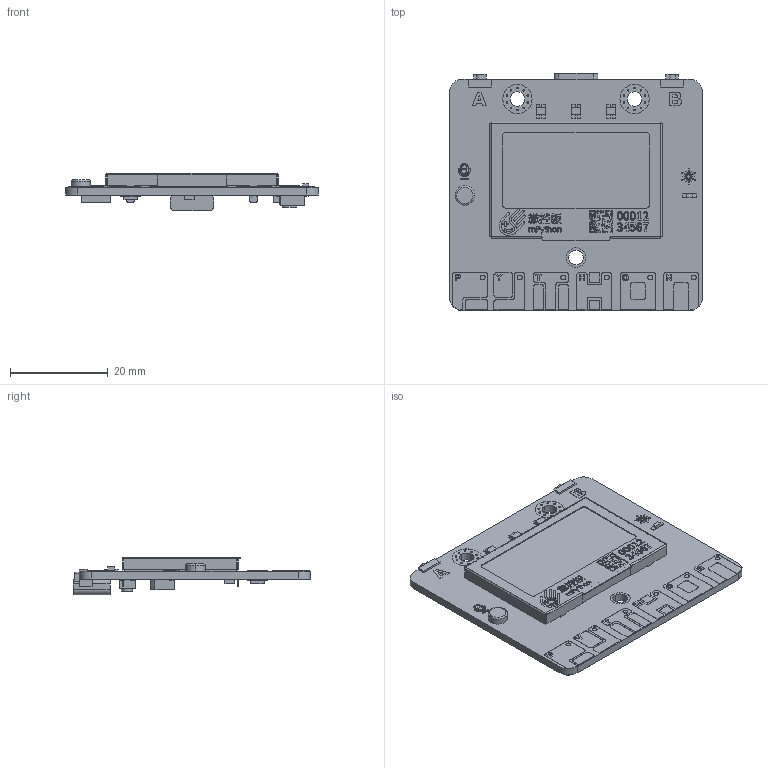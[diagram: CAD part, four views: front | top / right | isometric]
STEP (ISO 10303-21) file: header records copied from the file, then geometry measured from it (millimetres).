
FILE_DESCRIPTION((''),'2;1');
FILE_NAME('LABPLUS_ESP32_BOARD_B_V1_0_32_1','2020-01-02T15:13:43',('Administrator'),(''),'CREO PARAMETRIC BY PTC INC, 2016390','CREO PARAMETRIC BY PTC INC, 2016390','');
FILE_SCHEMA(('AUTOMOTIVE_DESIGN { 1 0 10303 214 1 1 1 1 }'));
Products named in the file (1): LABPLUS_ESP32_BOARD_B_V1_0_32_1
Bounding box: 51.8 x 48.59 x 7.65 mm (x, y, z)
Volume: 6409.9 mm3; surface area: 6851.6 mm2
Topology: 1 solids, 1 shells, 2715 faces, 7199 edges, 4786 vertices
Faces by surface type: plane 1860, extrusion 697, cylinder 156, torus 2
Entity records: 114523 total; most frequent: CARTESIAN_POINT 24503, ORIENTED_EDGE 14334, DIRECTION 10779, PRESENTATION_STYLE_ASSIGNMENT 7456, STYLED_ITEM 7168, CURVE_STYLE 7167, EDGE_CURVE 7167, VECTOR 6087
